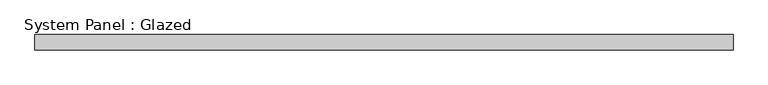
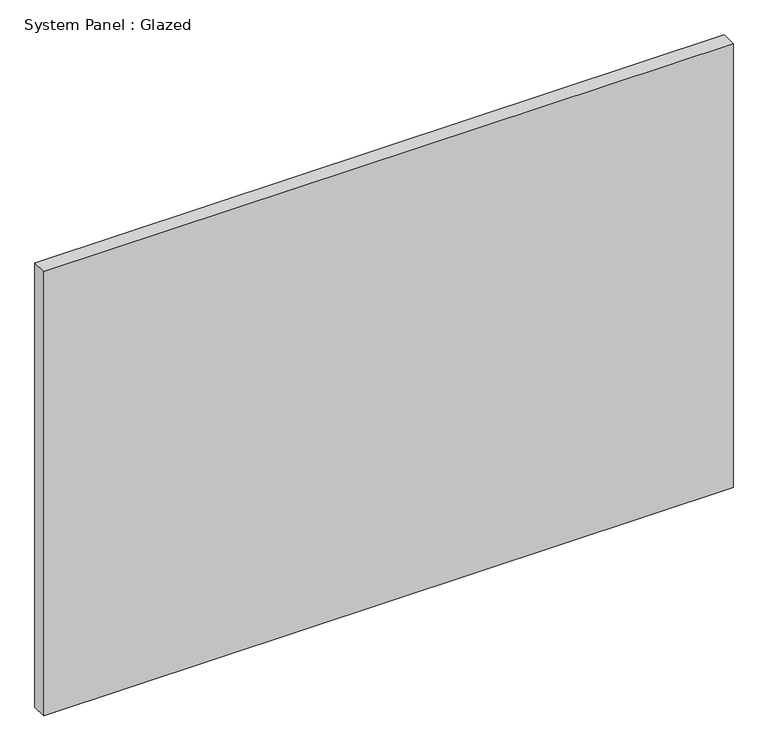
"""IFC4 building model written with IfcOpenShell, lengths in millimetres: plate geometry, System Panel : Glazed."""

from ifc_helpers import new_model, si_unit, origin, origin_with_axes, place, context, project, spatial, polyline, outline, extrude, source, transform, mapped, element, save


def system_panel_glazed_134bacdb(model_context):
    return source(origin(), model_context, "Body", "SweptSolid", [
        extrude(outline(polyline([(577.8500002, -44.45), (-577.8500002, -44.45), (-577.8500002, -19.05), (577.8500002, -19.05), (577.8500002, -44.45)])), origin_with_axes(), (0.0, 0.0, 1.0), 787.4),
    ])


if __name__ == "__main__":
    model = new_model("IFC4")
    model_context = context("Model", 3, world=origin())
    ifc_project = project(units=[si_unit("LENGTHUNIT", "METRE", prefix="MILLI")], contexts=[model_context])
    site = spatial("IfcSite", under=ifc_project)
    building = spatial("IfcBuilding", under=site)
    placement = place(None, origin())
    system_panel_glazed_shape = system_panel_glazed_134bacdb(model_context)
    element("IfcPlate", 1, ObjectType="System Panel : Glazed", at=placement, inside=building, context=model_context, shape_type="MappedRepresentation", body=[
        mapped(system_panel_glazed_shape, transform((0.0, 0.0, 0.0), x_axis=(1.0, 0.0, 0.0), y_axis=(0.0, 1.0, 0.0), z_axis=(0.0, 0.0, 1.0))),
    ])
    save(model, "model.ifc")
